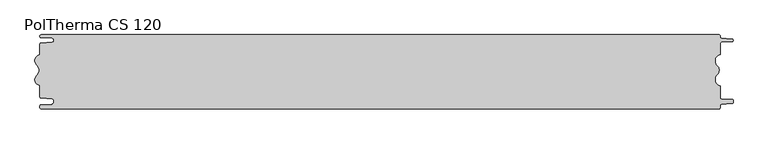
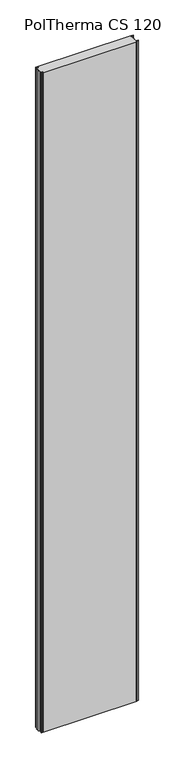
"""IFC4 building model written with IfcOpenShell, lengths in millimetres: plate geometry, Europanels_Poltherma CS_Vt : PolTherma CS 120."""

from ifc_helpers import new_model, si_unit, point, frame_2d, origin, origin_with_axes, place, context, project, spatial, polyline, circle_curve, trimmed, segment, composite_curve, outline, extrude, source, transform, mapped, element, save


def poltherma_cs_120_ee5d68ca(model_context):
    return source(origin(), model_context, "Body", "SweptSolid", [
        extrude(outline(composite_curve([segment(trimmed(circle_curve(frame_2d((-546.5011047, -58.0)), 2.0), [point((-546.5011047, -60.0))], [point((-548.5011047, -58.0))], False, "CARTESIAN"), True, "CONTINUOUS"), segment(polyline([(-548.5011047, -58.0), (-548.5011047, -55.2751521)]), True, "CONTINUOUS"), segment(trimmed(circle_curve(frame_2d((-546.5011047, -55.2751521)), 2.0), [point((-548.5011047, -55.2751521))], [point((-546.6091486, -53.2780726))], False, "CARTESIAN"), True, "CONTINUOUS"), segment(polyline([(-546.6091486, -53.2780726), (-528.8358621, -52.3165207)]), True, "CONTINUOUS"), segment(trimmed(circle_curve(frame_2d((-528.9979279, -49.3209015)), 3.0), [point((-528.8358621, -52.3165207))], [point((-525.9979279, -49.3209015))], True, "CARTESIAN"), True, "CONTINUOUS"), segment(polyline([(-525.9979279, -49.3209015), (-525.9979279, -46.3793238)]), True, "CONTINUOUS"), segment(trimmed(circle_curve(frame_2d((-528.9979279, -46.3793238)), 3.0), [point((-525.9979279, -46.3793238))], [point((-528.8252666, -43.3842966))], True, "CARTESIAN"), True, "CONTINUOUS"), segment(polyline([(-528.8252666, -43.3842966), (-546.8047015, -42.3477941)]), True, "CONTINUOUS"), segment(trimmed(circle_curve(frame_2d((-546.7011047, -40.5507777)), 1.8), [point((-546.8047015, -42.3477941))], [point((-548.5011047, -40.5507777))], False, "CARTESIAN"), True, "CONTINUOUS"), segment(polyline([(-548.5011047, -40.5507777), (-548.5011047, -22.1267156)]), True, "CONTINUOUS"), segment(trimmed(circle_curve(frame_2d((-546.6475513, -12.3)), 10.0), [point((-548.5011047, -22.1267156))], [point((-553.2619295, -4.8))], False, "CARTESIAN"), True, "CONTINUOUS"), segment(trimmed(circle_curve(frame_2d((-559.8763078, 2.7)), 10.0), [point((-553.2619295, -4.8))], [point((-553.2619295, 10.2))], True, "CARTESIAN"), True, "CONTINUOUS"), segment(trimmed(circle_curve(frame_2d((-546.6475513, 17.7)), 10.0), [point((-553.2619295, 10.2))], [point((-548.5011047, 27.5267156))], False, "CARTESIAN"), True, "CONTINUOUS"), segment(polyline([(-548.5011047, 27.5267156), (-548.5011047, 44.9895357)]), True, "CONTINUOUS"), segment(trimmed(circle_curve(frame_2d((-546.7511047, 44.9895357)), 1.75), [point((-548.5011047, 44.9895357))], [point((-546.8518238, 46.7366349))], False, "CARTESIAN"), True, "CONTINUOUS"), segment(polyline([(-546.8518238, 46.7366349), (-528.9396487, 47.76926)]), True, "CONTINUOUS"), segment(trimmed(circle_curve(frame_2d((-529.1287609, 51.049649)), 3.2858356), [point((-528.9396487, 47.76926))], [point((-528.9512537, 54.3306864))], True, "CARTESIAN"), True, "CONTINUOUS"), segment(polyline([(-528.9512537, 54.3306864), (-546.4100907, 55.2752262)]), True, "CONTINUOUS"), segment(trimmed(circle_curve(frame_2d((-546.2823767, 57.635887)), 2.364113), [point((-546.4100907, 55.2752262))], [point((-546.2823767, 60.0))], False, "CARTESIAN"), True, "CONTINUOUS"), segment(polyline([(-546.2823767, 60.0), (546.5011047, 60.0)]), True, "CONTINUOUS"), segment(trimmed(circle_curve(frame_2d((546.5011047, 58.0)), 2.0), [point((546.5011047, 60.0))], [point((548.5011047, 58.0))], False, "CARTESIAN"), True, "CONTINUOUS"), segment(polyline([(548.5011047, 58.0), (548.5011047, 56.2557869)]), True, "CONTINUOUS"), segment(trimmed(circle_curve(frame_2d((550.5011047, 56.2557869)), 2.0), [point((548.5011047, 56.2557869))], [point((550.3765791, 54.2596673))], True, "CARTESIAN"), True, "CONTINUOUS"), segment(polyline([(550.3765791, 54.2596673), (567.4693321, 53.1933562)]), True, "CONTINUOUS"), segment(trimmed(circle_curve(frame_2d((567.3344166, 51.0306882)), 2.1668722), [point((567.4693321, 53.1933562))], [point((567.4303304, 48.8659398))], False, "CARTESIAN"), True, "CONTINUOUS"), segment(polyline([(567.4303304, 48.8659398), (550.4152514, 48.1120505)]), True, "CONTINUOUS"), segment(trimmed(circle_curve(frame_2d((550.5011047, 46.113894)), 2.0), [point((550.4152514, 48.1120505))], [point((548.5011047, 46.113894))], True, "CARTESIAN"), True, "CONTINUOUS"), segment(polyline([(548.5011047, 46.113894), (548.5011047, 28.3234285)]), True, "CONTINUOUS"), segment(trimmed(circle_curve(frame_2d((551.354658, 17.7)), 11.0), [point((548.5011047, 28.3234285))], [point((544.0788419, 9.45))], True, "CARTESIAN"), True, "CONTINUOUS"), segment(trimmed(circle_curve(frame_2d((538.1259015, 2.7)), 9.0), [point((544.0788419, 9.45))], [point((544.0788419, -4.05))], False, "CARTESIAN"), True, "CONTINUOUS"), segment(trimmed(circle_curve(frame_2d((551.354658, -12.3)), 11.0), [point((544.0788419, -4.05))], [point((548.5011047, -22.9234285))], True, "CARTESIAN"), True, "CONTINUOUS"), segment(polyline([(548.5011047, -22.9234285), (548.5011047, -41.9117672)]), True, "CONTINUOUS"), segment(trimmed(circle_curve(frame_2d((550.3011047, -41.9117672)), 1.8), [point((548.5011047, -41.9117672))], [point((550.2244834, -43.7101357))], True, "CARTESIAN"), True, "CONTINUOUS"), segment(polyline([(550.2244834, -43.7101357), (567.5862394, -44.4498501)]), True, "CONTINUOUS"), segment(trimmed(circle_curve(frame_2d((567.5011047, -46.4480373)), 2.0), [point((567.5862394, -44.4498501))], [point((569.5011047, -46.4480373))], False, "CARTESIAN"), True, "CONTINUOUS"), segment(polyline([(569.5011047, -46.4480373), (569.5011047, -49.1874198)]), True, "CONTINUOUS"), segment(trimmed(circle_curve(frame_2d((567.5011047, -49.1874198)), 2.0), [point((569.5011047, -49.1874198))], [point((567.624345, -51.1836192))], False, "CARTESIAN"), True, "CONTINUOUS"), segment(polyline([(567.624345, -51.1836192), (550.3778643, -52.2483736)]), True, "CONTINUOUS"), segment(trimmed(circle_curve(frame_2d((550.5011047, -54.244573)), 2.0), [point((550.3778643, -52.2483736))], [point((548.5011047, -54.244573))], True, "CARTESIAN"), True, "CONTINUOUS"), segment(polyline([(548.5011047, -54.244573), (548.5011047, -58.0)]), True, "CONTINUOUS"), segment(trimmed(circle_curve(frame_2d((546.5011047, -58.0)), 2.0), [point((548.5011047, -58.0))], [point((546.5011047, -60.0))], False, "CARTESIAN"), True, "CONTINUOUS"), segment(polyline([(546.5011047, -60.0), (-546.5011047, -60.0)]), True, "CONTINUOUS")], self_intersect=False)), origin_with_axes(), (0.0, 0.0, 1.0), 8000.0),
    ])


if __name__ == "__main__":
    model = new_model("IFC4")
    model_context = context("Model", 3, world=origin())
    ifc_project = project(units=[si_unit("LENGTHUNIT", "METRE", prefix="MILLI")], contexts=[model_context])
    site = spatial("IfcSite", under=ifc_project)
    building = spatial("IfcBuilding", under=site)
    placement = place(None, origin())
    poltherma_cs_120_shape = poltherma_cs_120_ee5d68ca(model_context)
    element("IfcPlate", 1, ObjectType="Europanels_Poltherma CS_Vt : PolTherma CS 120", at=placement, inside=building, context=model_context, shape_type="MappedRepresentation", body=[
        mapped(poltherma_cs_120_shape, transform((0.0, 0.0, 0.0), x_axis=(1.0, 0.0, 0.0), y_axis=(0.0, 1.0, 0.0), z_axis=(0.0, 0.0, 1.0))),
    ])
    save(model, "model.ifc")
